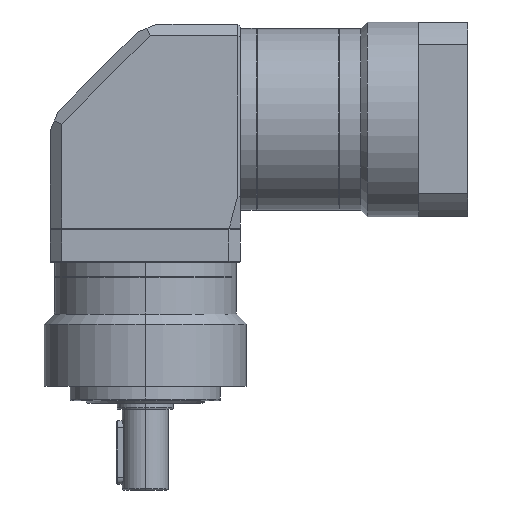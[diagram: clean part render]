
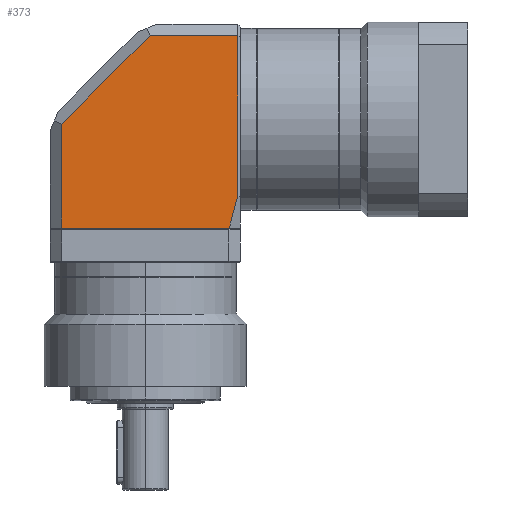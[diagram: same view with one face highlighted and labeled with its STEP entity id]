
A CAD part, left-side view. The second image highlights one B-rep face of the part: STEP entity #373.
In plain terms, the highlighted planar face has unit normal (-1, 0, 0).
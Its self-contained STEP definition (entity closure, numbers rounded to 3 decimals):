
#172=PLANE('',#3689);
#373=ADVANCED_FACE('',(#629),#172,.F.);
#629=FACE_OUTER_BOUND('',#852,.T.);
#852=EDGE_LOOP('',(#1622,#1623,#1624,#1625,#1626,#1627));
#1622=ORIENTED_EDGE('',*,*,#2703,.T.);
#1623=ORIENTED_EDGE('',*,*,#2655,.T.);
#1624=ORIENTED_EDGE('',*,*,#2681,.F.);
#1625=ORIENTED_EDGE('',*,*,#2665,.T.);
#1626=ORIENTED_EDGE('',*,*,#2696,.T.);
#1627=ORIENTED_EDGE('',*,*,#2701,.T.);
#2286=VERTEX_POINT('',#5517);
#2288=VERTEX_POINT('',#5521);
#2294=VERTEX_POINT('',#5541);
#2295=VERTEX_POINT('',#5543);
#2317=VERTEX_POINT('',#5605);
#2318=VERTEX_POINT('',#5611);
#2655=EDGE_CURVE('',#2286,#2288,#3046,.T.);
#2665=EDGE_CURVE('',#2295,#2294,#3056,.T.);
#2681=EDGE_CURVE('',#2295,#2288,#3072,.T.);
#2696=EDGE_CURVE('',#2294,#2317,#3087,.T.);
#2701=EDGE_CURVE('',#2317,#2318,#3092,.T.);
#2703=EDGE_CURVE('',#2318,#2286,#3094,.T.);
#3046=LINE('',#5522,#3344);
#3056=LINE('',#5542,#3354);
#3072=LINE('',#5573,#3370);
#3087=LINE('',#5604,#3385);
#3092=LINE('',#5612,#3390);
#3094=LINE('',#5615,#3392);
#3344=VECTOR('',#4357,1.);
#3354=VECTOR('',#4375,1.);
#3370=VECTOR('',#4401,1.);
#3385=VECTOR('',#4424,1.);
#3390=VECTOR('',#4431,1.);
#3392=VECTOR('',#4435,1.);
#3689=AXIS2_PLACEMENT_3D('',#5639,#4464,#4465);
#4357=DIRECTION('',(0.,-1.,0.));
#4375=DIRECTION('',(0.,0.,1.));
#4401=DIRECTION('',(0.,0.258,-0.966));
#4424=DIRECTION('',(0.,1.,0.));
#4431=DIRECTION('',(0.,0.707,-0.707));
#4435=DIRECTION('',(0.,0.,-1.));
#4464=DIRECTION('',(1.,0.,0.));
#4465=DIRECTION('',(0.,1.,0.));
#5517=CARTESIAN_POINT('',(-33.,29.,54.8));
#5521=CARTESIAN_POINT('',(-33.,-29.08,54.8));
#5522=CARTESIAN_POINT('',(-33.,-33.,54.8));
#5541=CARTESIAN_POINT('',(-33.,-32.,121.5));
#5542=CARTESIAN_POINT('',(-33.,-32.,125.5));
#5543=CARTESIAN_POINT('',(-33.,-32.,65.75));
#5573=CARTESIAN_POINT('',(-33.,-46.942,121.782));
#5604=CARTESIAN_POINT('',(-33.,0.,121.5));
#5605=CARTESIAN_POINT('',(-33.,-1.657,121.5));
#5611=CARTESIAN_POINT('',(-33.,29.,90.843));
#5612=CARTESIAN_POINT('',(-33.,30.172,89.672));
#5615=CARTESIAN_POINT('',(-33.,29.,125.5));
#5639=CARTESIAN_POINT('',(-33.,-33.,125.5));
